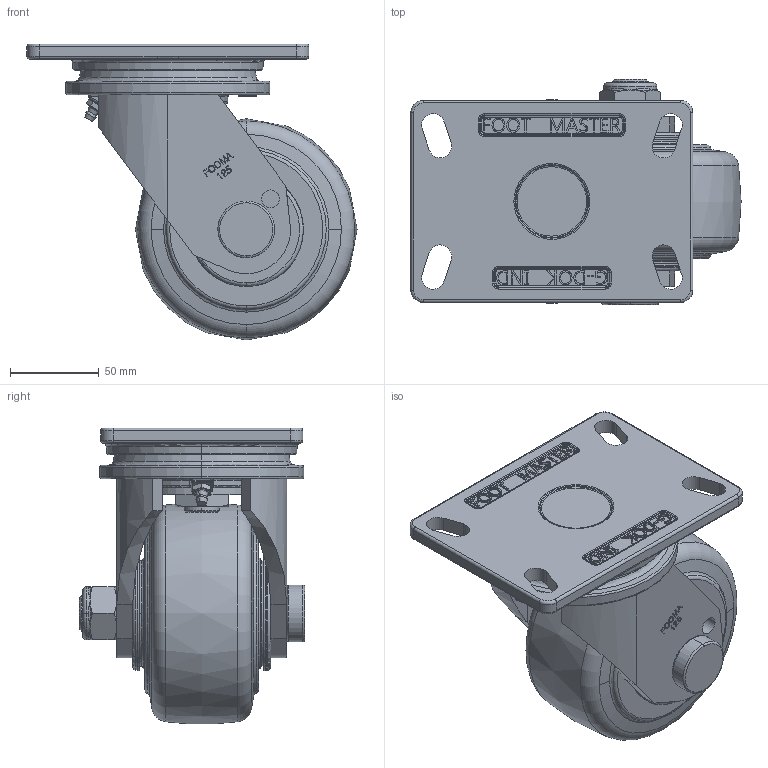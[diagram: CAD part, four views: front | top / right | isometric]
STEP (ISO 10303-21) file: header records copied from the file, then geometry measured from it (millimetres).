
FILE_DESCRIPTION((''),'2;1');
FILE_NAME('GF-125A-SF-MUD.stp','2012-06-06T16:21:40',(''),(''),'Mechanical Desktop 2009','Mechanical Desktop 2009',', , ');
FILE_SCHEMA(('CONFIG_CONTROL_DESIGN'));
Length unit declared in the file: millimetre
Products named in the file (2): GF-125A-SF-MUD; GF-SF-PLATE-FORGE
Assembly tree (1 placements, depth 2):
  GF-125A-SF-MUD
    GF-SF-PLATE-FORGE
Bounding box: 186.2 x 127 x 166.84 mm (x, y, z)
Volume: 1257842.7 mm3; surface area: 143004 mm2
Topology: 1 solids, 2 shells, 1362 faces, 3643 edges, 2299 vertices
Faces by surface type: bspline 559, plane 422, cylinder 220, torus 80, cone 77, sphere 4
Entity records: 48521 total; most frequent: CARTESIAN_POINT 17287, ORIENTED_EDGE 7240, DIRECTION 5343, EDGE_CURVE 3620, VERTEX_POINT 2298, AXIS2_PLACEMENT_3D 1840, VECTOR 1663, LINE 1663
